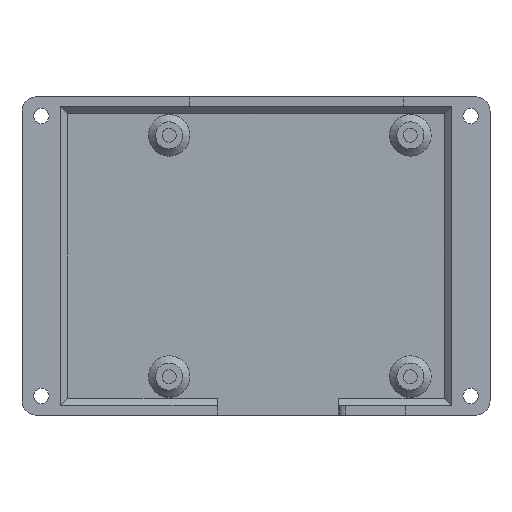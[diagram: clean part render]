
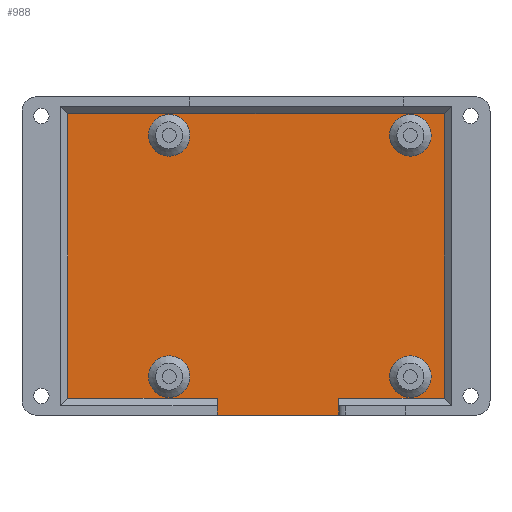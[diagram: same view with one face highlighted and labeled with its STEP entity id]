
A CAD part, front view. The second image highlights one B-rep face of the part: STEP entity #988.
In plain terms, the highlighted planar face has unit normal (0, -1, 0).
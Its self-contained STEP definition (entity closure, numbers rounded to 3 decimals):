
#36=FACE_BOUND('',#157,.T.);
#37=FACE_BOUND('',#158,.T.);
#38=FACE_BOUND('',#159,.T.);
#39=FACE_BOUND('',#160,.T.);
#56=PLANE('',#1066);
#94=FACE_OUTER_BOUND('',#156,.T.);
#156=EDGE_LOOP('',(#707,#708,#709,#710,#711,#712,#713,#714));
#157=EDGE_LOOP('',(#715));
#158=EDGE_LOOP('',(#716));
#159=EDGE_LOOP('',(#717));
#160=EDGE_LOOP('',(#718));
#238=LINE('',#1493,#332);
#239=LINE('',#1495,#333);
#240=LINE('',#1497,#334);
#241=LINE('',#1499,#335);
#242=LINE('',#1501,#336);
#243=LINE('',#1503,#337);
#244=LINE('',#1505,#338);
#245=LINE('',#1506,#339);
#332=VECTOR('',#1182,10.);
#333=VECTOR('',#1183,10.);
#334=VECTOR('',#1184,10.);
#335=VECTOR('',#1185,10.);
#336=VECTOR('',#1186,10.);
#337=VECTOR('',#1187,10.);
#338=VECTOR('',#1188,10.);
#339=VECTOR('',#1189,10.);
#425=CIRCLE('',#1064,4.299);
#427=CIRCLE('',#1067,4.299);
#428=CIRCLE('',#1068,4.299);
#429=CIRCLE('',#1069,4.299);
#471=VERTEX_POINT('',#1485);
#473=VERTEX_POINT('',#1491);
#474=VERTEX_POINT('',#1492);
#475=VERTEX_POINT('',#1494);
#476=VERTEX_POINT('',#1496);
#477=VERTEX_POINT('',#1498);
#478=VERTEX_POINT('',#1500);
#479=VERTEX_POINT('',#1502);
#480=VERTEX_POINT('',#1504);
#481=VERTEX_POINT('',#1507);
#482=VERTEX_POINT('',#1509);
#483=VERTEX_POINT('',#1511);
#563=EDGE_CURVE('',#471,#471,#425,.T.);
#566=EDGE_CURVE('',#473,#474,#238,.T.);
#567=EDGE_CURVE('',#474,#475,#239,.T.);
#568=EDGE_CURVE('',#475,#476,#240,.T.);
#569=EDGE_CURVE('',#477,#476,#241,.T.);
#570=EDGE_CURVE('',#477,#478,#242,.T.);
#571=EDGE_CURVE('',#478,#479,#243,.T.);
#572=EDGE_CURVE('',#480,#479,#244,.T.);
#573=EDGE_CURVE('',#480,#473,#245,.T.);
#574=EDGE_CURVE('',#481,#481,#427,.T.);
#575=EDGE_CURVE('',#482,#482,#428,.T.);
#576=EDGE_CURVE('',#483,#483,#429,.T.);
#707=ORIENTED_EDGE('',*,*,#566,.T.);
#708=ORIENTED_EDGE('',*,*,#567,.T.);
#709=ORIENTED_EDGE('',*,*,#568,.T.);
#710=ORIENTED_EDGE('',*,*,#569,.F.);
#711=ORIENTED_EDGE('',*,*,#570,.T.);
#712=ORIENTED_EDGE('',*,*,#571,.T.);
#713=ORIENTED_EDGE('',*,*,#572,.F.);
#714=ORIENTED_EDGE('',*,*,#573,.T.);
#715=ORIENTED_EDGE('',*,*,#574,.F.);
#716=ORIENTED_EDGE('',*,*,#575,.F.);
#717=ORIENTED_EDGE('',*,*,#576,.F.);
#718=ORIENTED_EDGE('',*,*,#563,.F.);
#988=ADVANCED_FACE('',(#94,#36,#37,#38,#39),#56,.F.);
#1064=AXIS2_PLACEMENT_3D('',#1486,#1175,#1176);
#1066=AXIS2_PLACEMENT_3D('',#1490,#1180,#1181);
#1067=AXIS2_PLACEMENT_3D('',#1508,#1190,#1191);
#1068=AXIS2_PLACEMENT_3D('',#1510,#1192,#1193);
#1069=AXIS2_PLACEMENT_3D('',#1512,#1194,#1195);
#1175=DIRECTION('center_axis',(0.,-1.,0.));
#1176=DIRECTION('ref_axis',(1.,0.,0.));
#1180=DIRECTION('center_axis',(0.,1.,0.));
#1181=DIRECTION('ref_axis',(1.,0.,0.));
#1182=DIRECTION('',(1.,0.,0.));
#1183=DIRECTION('',(0.,0.,1.));
#1184=DIRECTION('',(-1.,0.,0.));
#1185=DIRECTION('',(0.,0.,1.));
#1186=DIRECTION('',(1.,0.,0.));
#1187=DIRECTION('',(0.,0.,-1.));
#1188=DIRECTION('',(-1.,0.,0.));
#1189=DIRECTION('',(0.,0.,1.));
#1190=DIRECTION('center_axis',(0.,-1.,0.));
#1191=DIRECTION('ref_axis',(1.,0.,0.));
#1192=DIRECTION('center_axis',(0.,-1.,0.));
#1193=DIRECTION('ref_axis',(1.,0.,0.));
#1194=DIRECTION('center_axis',(0.,-1.,0.));
#1195=DIRECTION('ref_axis',(1.,0.,0.));
#1485=CARTESIAN_POINT('',(119.701,17.6,25.));
#1486=CARTESIAN_POINT('Origin',(124.,17.6,25.));
#1490=CARTESIAN_POINT('Origin',(142.5,17.6,0.));
#1491=CARTESIAN_POINT('',(159.15,17.6,-29.5));
#1492=CARTESIAN_POINT('',(181.,17.6,-29.5));
#1493=CARTESIAN_POINT('',(157.75,17.6,-29.5));
#1494=CARTESIAN_POINT('',(181.,17.6,29.5));
#1495=CARTESIAN_POINT('',(181.,17.6,-12.5));
#1496=CARTESIAN_POINT('',(103.,17.6,29.5));
#1497=CARTESIAN_POINT('',(135.5,17.6,29.5));
#1498=CARTESIAN_POINT('',(103.,17.6,-29.5));
#1499=CARTESIAN_POINT('',(103.,17.6,12.5));
#1500=CARTESIAN_POINT('',(133.95,17.6,-29.5));
#1501=CARTESIAN_POINT('',(135.5,17.6,-29.5));
#1502=CARTESIAN_POINT('',(133.95,17.6,-33.));
#1503=CARTESIAN_POINT('',(133.95,17.6,15.));
#1504=CARTESIAN_POINT('',(159.15,17.6,-33.));
#1505=CARTESIAN_POINT('',(125.,17.6,-33.));
#1506=CARTESIAN_POINT('',(159.15,17.6,-14.75));
#1507=CARTESIAN_POINT('',(119.701,17.6,-25.));
#1508=CARTESIAN_POINT('Origin',(124.,17.6,-25.));
#1509=CARTESIAN_POINT('',(169.701,17.6,25.));
#1510=CARTESIAN_POINT('Origin',(174.,17.6,25.));
#1511=CARTESIAN_POINT('',(169.701,17.6,-25.));
#1512=CARTESIAN_POINT('Origin',(174.,17.6,-25.));
